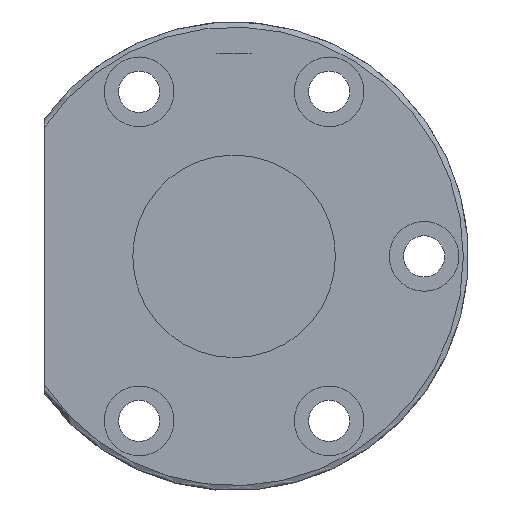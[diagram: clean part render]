
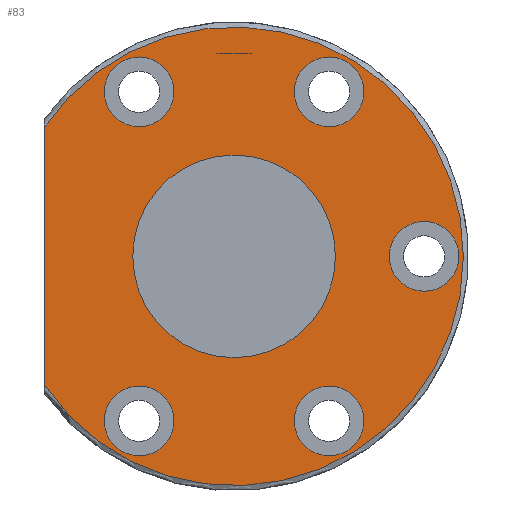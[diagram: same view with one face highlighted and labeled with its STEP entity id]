
A CAD part, front view. The second image highlights one B-rep face of the part: STEP entity #83.
In plain terms, the highlighted planar face has unit normal (0, -1, 0).
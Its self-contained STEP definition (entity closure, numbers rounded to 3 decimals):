
#32=LINE('',#657,#36);
#36=VECTOR('',#512,1.);
#62=PLANE('',#455);
#83=ADVANCED_FACE('',(#128,#129,#130,#131,#132,#133,#134),#62,.F.);
#128=FACE_BOUND('',#189,.T.);
#129=FACE_BOUND('',#190,.T.);
#130=FACE_BOUND('',#191,.T.);
#131=FACE_BOUND('',#192,.T.);
#132=FACE_BOUND('',#193,.T.);
#133=FACE_BOUND('',#194,.T.);
#134=FACE_BOUND('',#195,.T.);
#189=EDGE_LOOP('',(#263));
#190=EDGE_LOOP('',(#264));
#191=EDGE_LOOP('',(#265));
#192=EDGE_LOOP('',(#266));
#193=EDGE_LOOP('',(#267));
#194=EDGE_LOOP('',(#268,#269));
#195=EDGE_LOOP('',(#270));
#263=ORIENTED_EDGE('',*,*,#378,.T.);
#264=ORIENTED_EDGE('',*,*,#379,.T.);
#265=ORIENTED_EDGE('',*,*,#380,.T.);
#266=ORIENTED_EDGE('',*,*,#381,.T.);
#267=ORIENTED_EDGE('',*,*,#382,.T.);
#268=ORIENTED_EDGE('',*,*,#367,.F.);
#269=ORIENTED_EDGE('',*,*,#383,.T.);
#270=ORIENTED_EDGE('',*,*,#376,.F.);
#330=VERTEX_POINT('',#656);
#331=VERTEX_POINT('',#658);
#337=VERTEX_POINT('',#777);
#339=VERTEX_POINT('',#782);
#340=VERTEX_POINT('',#784);
#341=VERTEX_POINT('',#786);
#342=VERTEX_POINT('',#788);
#343=VERTEX_POINT('',#790);
#367=EDGE_CURVE('',#330,#331,#32,.T.);
#376=EDGE_CURVE('',#337,#337,#408,.T.);
#378=EDGE_CURVE('',#339,#339,#410,.T.);
#379=EDGE_CURVE('',#340,#340,#411,.T.);
#380=EDGE_CURVE('',#341,#341,#412,.T.);
#381=EDGE_CURVE('',#342,#342,#413,.T.);
#382=EDGE_CURVE('',#343,#343,#414,.T.);
#383=EDGE_CURVE('',#330,#331,#415,.T.);
#408=CIRCLE('',#446,16.);
#410=CIRCLE('',#449,5.5);
#411=CIRCLE('',#450,5.5);
#412=CIRCLE('',#451,5.5);
#413=CIRCLE('',#452,5.5);
#414=CIRCLE('',#453,5.5);
#415=CIRCLE('',#454,36.2);
#446=AXIS2_PLACEMENT_3D('',#776,#523,#524);
#449=AXIS2_PLACEMENT_3D('',#781,#529,#530);
#450=AXIS2_PLACEMENT_3D('',#783,#531,#532);
#451=AXIS2_PLACEMENT_3D('',#785,#533,#534);
#452=AXIS2_PLACEMENT_3D('',#787,#535,#536);
#453=AXIS2_PLACEMENT_3D('',#789,#537,#538);
#454=AXIS2_PLACEMENT_3D('',#791,#539,#540);
#455=AXIS2_PLACEMENT_3D('',#792,#541,#542);
#512=DIRECTION('',(0.,0.,1.));
#523=DIRECTION('',(0.,-1.,0.));
#524=DIRECTION('',(1.,0.,0.));
#529=DIRECTION('',(0.,1.,0.));
#530=DIRECTION('',(0.,0.,1.));
#531=DIRECTION('',(0.,1.,0.));
#532=DIRECTION('',(0.,0.,1.));
#533=DIRECTION('',(0.,1.,0.));
#534=DIRECTION('',(0.,0.,1.));
#535=DIRECTION('',(0.,1.,0.));
#536=DIRECTION('',(0.,0.,1.));
#537=DIRECTION('',(0.,1.,0.));
#538=DIRECTION('',(0.,0.,1.));
#539=DIRECTION('',(0.,-1.,0.));
#540=DIRECTION('',(0.,0.,1.));
#541=DIRECTION('',(0.,1.,0.));
#542=DIRECTION('',(0.,0.,1.));
#656=CARTESIAN_POINT('',(-30.,-24.461,-20.259));
#657=CARTESIAN_POINT('',(-30.,-24.461,-21.656));
#658=CARTESIAN_POINT('',(-30.,-24.461,20.259));
#776=CARTESIAN_POINT('',(0.,-24.461,0.));
#777=CARTESIAN_POINT('',(16.,-24.461,0.));
#781=CARTESIAN_POINT('',(30.,-24.461,0.));
#782=CARTESIAN_POINT('',(30.,-24.461,5.5));
#783=CARTESIAN_POINT('',(15.,-24.461,-25.981));
#784=CARTESIAN_POINT('',(15.,-24.461,-20.481));
#785=CARTESIAN_POINT('',(-15.,-24.461,-25.981));
#786=CARTESIAN_POINT('',(-15.,-24.461,-20.481));
#787=CARTESIAN_POINT('',(15.,-24.461,25.981));
#788=CARTESIAN_POINT('',(15.,-24.461,31.481));
#789=CARTESIAN_POINT('',(-15.,-24.461,25.981));
#790=CARTESIAN_POINT('',(-15.,-24.461,31.481));
#791=CARTESIAN_POINT('',(0.,-24.461,0.));
#792=CARTESIAN_POINT('',(0.,-24.461,0.));
